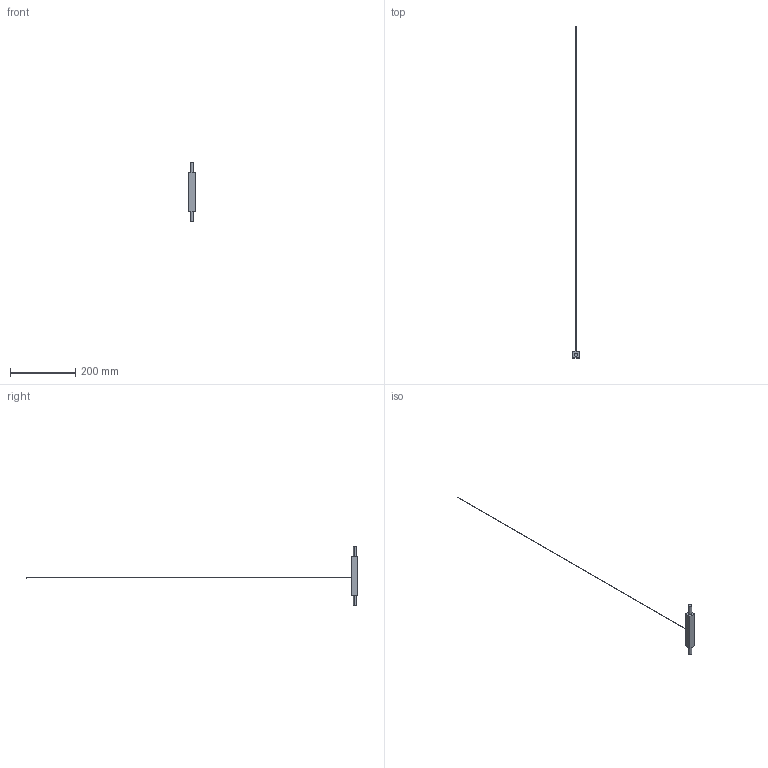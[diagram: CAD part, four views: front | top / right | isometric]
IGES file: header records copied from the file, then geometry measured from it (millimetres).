
Start section: SolidWorks IGES file using analytic representation for surfaces
Global section: file name: C:\Users\tungari.NEMOLIGHTING\Desktop\3D\SYSTEMS\3D_LINESCAPES_SYSTEMS\3D_LINESCAPE_CENTRAL\3D_LINESCAPES_CENTRAL.IGS; native system: SolidWorks 2016; preprocessor: SolidWorks 2016; author: tungari; date: 180302.163611; units: millimetre
Bounding box: 20 x 1015 x 182 mm (x, y, z)
Surface area: 16415.3 mm2 (no closed solid volume)
Topology: 0 solids, 0 shells, 18 faces, 208 edges, 208 vertices
Faces by surface type: bspline 12, revolution 6
